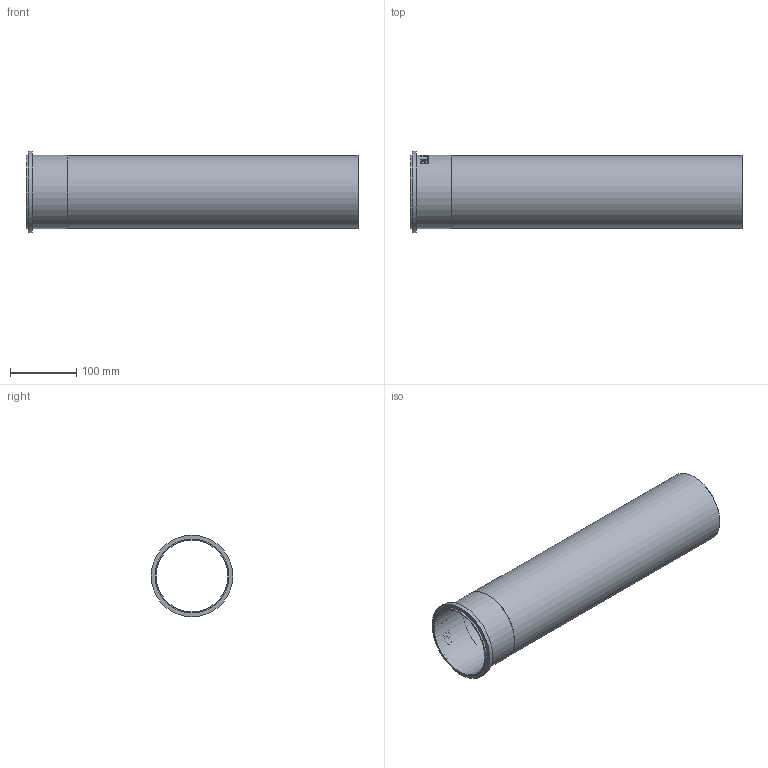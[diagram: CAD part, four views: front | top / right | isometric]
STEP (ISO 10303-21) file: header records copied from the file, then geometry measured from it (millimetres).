
FILE_DESCRIPTION((''),'2;1');
FILE_NAME('I:\WATTS\3D_CAD\3D_CAD_Models\Blucher_Drains\P_StraightPipe\WebsiteFiles\3D\STEP\P4-1.6-316.stp','2009-12-02T14:20:07',('menesek'),(''),'Autodesk Inventor 2010','Autodesk Inventor 2010','');
FILE_SCHEMA(('AUTOMOTIVE_DESIGN { 1 0 10303 214 1 1 1 1 }'));
Length unit declared in the file: inch
Products named in the file (1): P4-1.6-316
Bounding box: 500 x 122.94 x 122.94 mm (x, y, z)
Volume: 201140.3 mm3; surface area: 348353.7 mm2
Topology: 1 solids, 1 shells, 109 faces, 285 edges, 190 vertices
Faces by surface type: plane 59, bspline 34, cylinder 16
Full cylindrical faces by diameter (mm): 107.95 x1, 109.982 x1, 111.252 x2, 122.936 x1
Entity records: 13900 total; most frequent: CARTESIAN_POINT 11522, ORIENTED_EDGE 548, DIRECTION 356, EDGE_CURVE 274, VERTEX_POINT 186, EDGE_LOOP 128, AXIS2_PLACEMENT_3D 120, VECTOR 116
